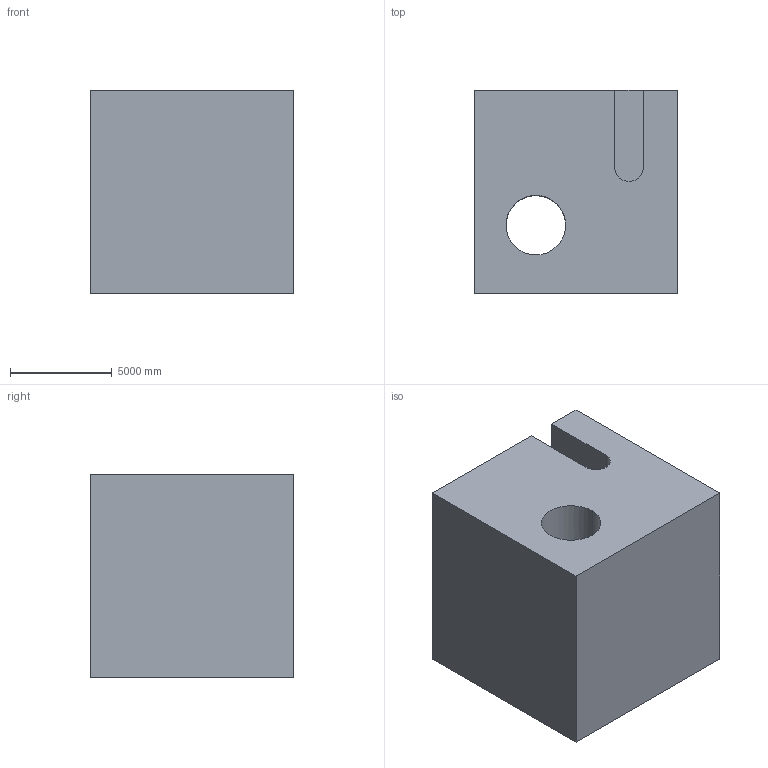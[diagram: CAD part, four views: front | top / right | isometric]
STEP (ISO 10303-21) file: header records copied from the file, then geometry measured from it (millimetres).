
FILE_DESCRIPTION (( 'STEP AP203' ), '1' );
FILE_NAME ('1285.STEP', '2022-08-18T13:33:51', ( 'user' ), ( '' ), 'SwSTEP 2.0', 'SolidWorks 2021', '' );
FILE_SCHEMA (( 'CONFIG_CONTROL_DESIGN' ));
Length unit declared in the file: centimetre
Products named in the file (1): 1285
Bounding box: 10000 x 10000 x 10000 mm (x, y, z)
Volume: 849496804649 mm3; surface area: 803388804.8 mm2
Topology: 1 solids, 1 shells, 16 faces, 45 edges, 30 vertices
Faces by surface type: plane 13, cylinder 3
Entity records: 600 total; most frequent: CARTESIAN_POINT 104, ORIENTED_EDGE 90, DIRECTION 81, EDGE_CURVE 45, LINE 35, VECTOR 35, VERTEX_POINT 30, AXIS2_PLACEMENT_3D 23
